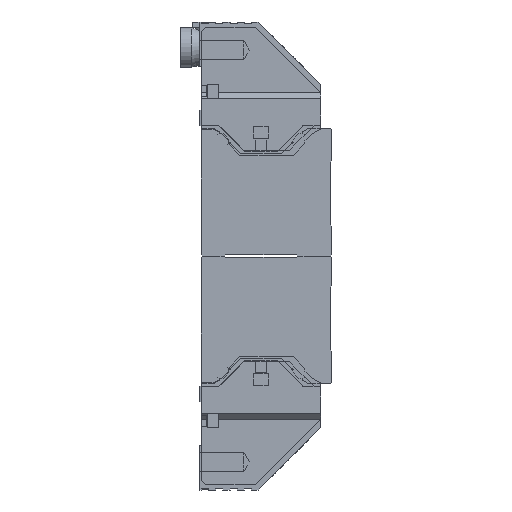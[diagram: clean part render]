
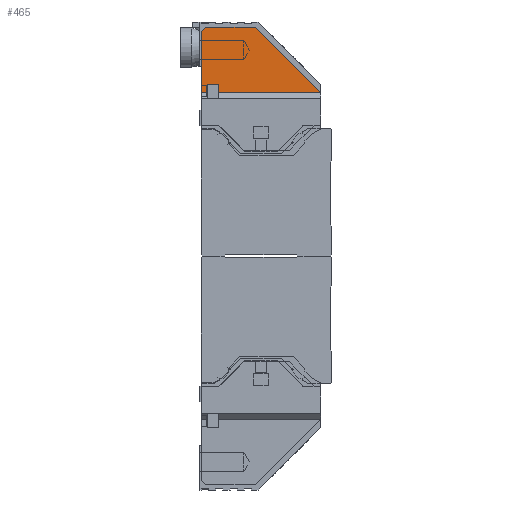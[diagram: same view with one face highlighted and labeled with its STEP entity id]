
A CAD part, left-side view. The second image highlights one B-rep face of the part: STEP entity #465.
In plain terms, the highlighted planar face has unit normal (-1, 0, 0).
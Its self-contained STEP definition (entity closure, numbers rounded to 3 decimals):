
#465 = ADVANCED_FACE( '', ( #1532 ), #1533, .T. );
#1532 = FACE_OUTER_BOUND( '', #3274, .T. );
#1533 = PLANE( '', #3275 );
#3274 = EDGE_LOOP( '', ( #5967, #5968, #5969, #5970, #5971, #5972, #5973, #5974, #5975 ) );
#3275 = AXIS2_PLACEMENT_3D( '', #5976, #5977, #5978 );
#5967 = ORIENTED_EDGE( '', *, *, #9851, .F. );
#5968 = ORIENTED_EDGE( '', *, *, #9860, .T. );
#5969 = ORIENTED_EDGE( '', *, *, #9852, .T. );
#5970 = ORIENTED_EDGE( '', *, *, #9864, .T. );
#5971 = ORIENTED_EDGE( '', *, *, #9865, .F. );
#5972 = ORIENTED_EDGE( '', *, *, #9866, .F. );
#5973 = ORIENTED_EDGE( '', *, *, #9867, .F. );
#5974 = ORIENTED_EDGE( '', *, *, #9868, .F. );
#5975 = ORIENTED_EDGE( '', *, *, #9861, .T. );
#5976 = CARTESIAN_POINT( '', ( -85.5, 30.25, 93. ) );
#5977 = DIRECTION( '', ( -1., 0., 0. ) );
#5978 = DIRECTION( '', ( 0., 0., 1. ) );
#9851 = EDGE_CURVE( '', #11913, #11906, #11915, .T. );
#9852 = EDGE_CURVE( '', #11916, #11917, #11918, .T. );
#9860 = EDGE_CURVE( '', #11913, #11916, #11929, .T. );
#9861 = EDGE_CURVE( '', #11930, #11906, #11931, .T. );
#9864 = EDGE_CURVE( '', #11917, #11672, #11935, .T. );
#9865 = EDGE_CURVE( '', #11936, #11672, #11937, .T. );
#9866 = EDGE_CURVE( '', #11938, #11936, #11939, .T. );
#9867 = EDGE_CURVE( '', #11940, #11938, #11941, .T. );
#9868 = EDGE_CURVE( '', #11930, #11940, #11942, .T. );
#11672 = VERTEX_POINT( '', #14503 );
#11906 = VERTEX_POINT( '', #14861 );
#11913 = VERTEX_POINT( '', #14871 );
#11915 = LINE( '', #14874, #14875 );
#11916 = VERTEX_POINT( '', #14876 );
#11917 = VERTEX_POINT( '', #14877 );
#11918 = LINE( '', #14878, #14879 );
#11929 = LINE( '', #14897, #14898 );
#11930 = VERTEX_POINT( '', #14899 );
#11931 = LINE( '', #14900, #14901 );
#11935 = LINE( '', #14907, #14908 );
#11936 = VERTEX_POINT( '', #14909 );
#11937 = LINE( '', #14910, #14911 );
#11938 = VERTEX_POINT( '', #14912 );
#11939 = LINE( '', #14913, #14914 );
#11940 = VERTEX_POINT( '', #14915 );
#11941 = LINE( '', #14916, #14917 );
#11942 = LINE( '', #14918, #14919 );
#14503 = CARTESIAN_POINT( '', ( -85.5, -19., 35. ) );
#14861 = CARTESIAN_POINT( '', ( -85.5, 21., 35. ) );
#14871 = CARTESIAN_POINT( '', ( -85.5, 21., 38. ) );
#14874 = CARTESIAN_POINT( '', ( -85.5, 21., 93. ) );
#14875 = VECTOR( '', #18223, 1000. );
#14876 = CARTESIAN_POINT( '', ( -85.5, 17., 38. ) );
#14877 = CARTESIAN_POINT( '', ( -85.5, 17., 35. ) );
#14878 = CARTESIAN_POINT( '', ( -85.5, 17., 93. ) );
#14879 = VECTOR( '', #18224, 1000. );
#14897 = CARTESIAN_POINT( '', ( -85.5, 30.25, 38. ) );
#14898 = VECTOR( '', #18232, 1000. );
#14899 = CARTESIAN_POINT( '', ( -85.5, 23., 35. ) );
#14900 = CARTESIAN_POINT( '', ( -85.5, 30.25, 35. ) );
#14901 = VECTOR( '', #18233, 1000. );
#14907 = CARTESIAN_POINT( '', ( -85.5, 30.25, 35. ) );
#14908 = VECTOR( '', #18236, 1000. );
#14909 = CARTESIAN_POINT( '', ( -85.5, 4., 58. ) );
#14910 = CARTESIAN_POINT( '', ( -85.5, 4., 58. ) );
#14911 = VECTOR( '', #18237, 1000. );
#14912 = CARTESIAN_POINT( '', ( -85.5, 21.5, 58. ) );
#14913 = CARTESIAN_POINT( '', ( -85.5, 21.5, 58. ) );
#14914 = VECTOR( '', #18238, 1000. );
#14915 = CARTESIAN_POINT( '', ( -85.5, 23., 56.5 ) );
#14916 = CARTESIAN_POINT( '', ( -85.5, 23., 56.5 ) );
#14917 = VECTOR( '', #18239, 1000. );
#14918 = CARTESIAN_POINT( '', ( -85.5, 23., 23.5 ) );
#14919 = VECTOR( '', #18240, 1000. );
#18223 = DIRECTION( '', ( 0., 0., -1. ) );
#18224 = DIRECTION( '', ( 0., 0., -1. ) );
#18232 = DIRECTION( '', ( 0., -1., 0. ) );
#18233 = DIRECTION( '', ( 0., -1., 0. ) );
#18236 = DIRECTION( '', ( 0., -1., 0. ) );
#18237 = DIRECTION( '', ( 0., -0.707, -0.707 ) );
#18238 = DIRECTION( '', ( 0., -1., 0. ) );
#18239 = DIRECTION( '', ( 0., -0.707, 0.707 ) );
#18240 = DIRECTION( '', ( 0., 0., 1. ) );
